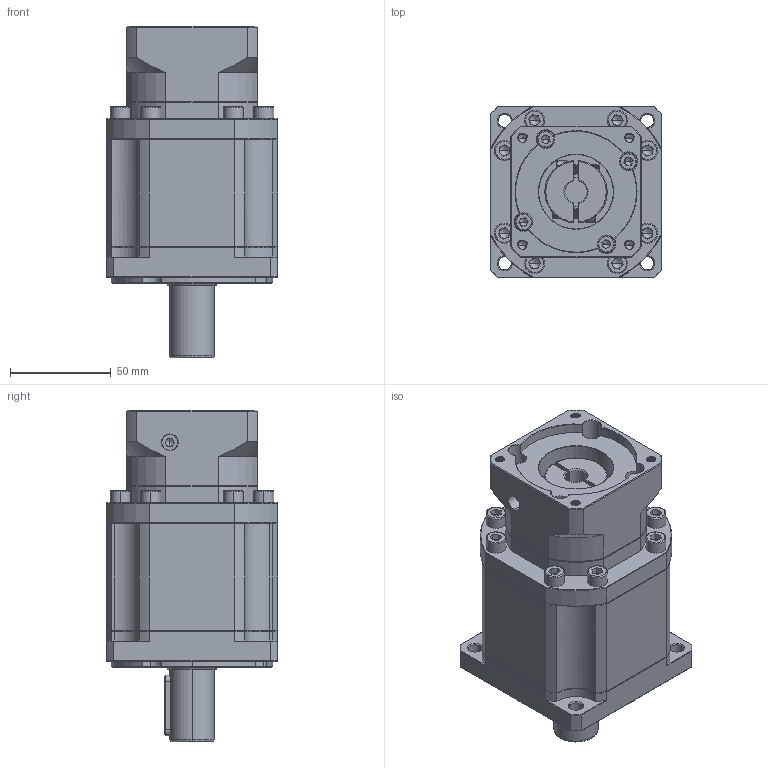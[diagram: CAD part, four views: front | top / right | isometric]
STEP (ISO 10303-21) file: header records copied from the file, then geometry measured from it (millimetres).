
FILE_DESCRIPTION (( 'STEP AP214' ), '1' );
FILE_NAME ('ZB090-D22-L3-P2-11-60-75-M5.step', '2023-08-18T13:37:58', ( '' ), ( '' ), 'SwSTEP 2.0', 'SolidWorks 2016', '' );
FILE_SCHEMA (( 'AUTOMOTIVE_DESIGN' ));
Length unit declared in the file: millimetre
Products named in the file (1): ZB090-D22-L3-P2-11-60-75-M5
Bounding box: 85 x 85 x 164.5 mm (x, y, z)
Volume: 662989.1 mm3; surface area: 82676.6 mm2
Topology: 6 solids, 6 shells, 2368 faces, 6304 edges, 4028 vertices
Faces by surface type: plane 1185, bspline 426, cylinder 409, cone 326, torus 22
Entity records: 126424 total; most frequent: CARTESIAN_POINT 44812, ORIENTED_EDGE 12516, DIRECTION 9990, EDGE_CURVE 6258, VERTEX_POINT 4028, LINE 3952, VECTOR 3952, AXIS2_PLACEMENT_3D 3019
